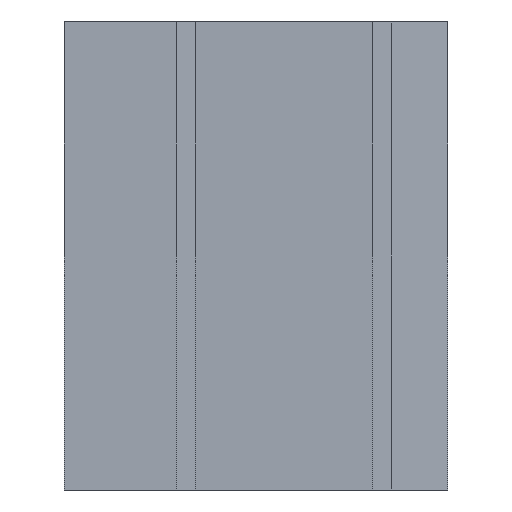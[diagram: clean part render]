
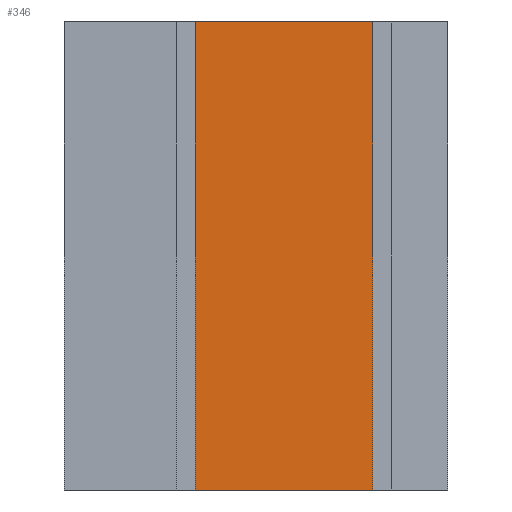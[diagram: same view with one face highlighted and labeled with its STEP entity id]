
A CAD part, left-side view. The second image highlights one B-rep face of the part: STEP entity #346.
In plain terms, the highlighted planar face has unit normal (-1, 0, 0).
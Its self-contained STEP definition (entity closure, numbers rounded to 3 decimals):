
#346=ADVANCED_FACE('',(#887),#889,.T.);
#887=FACE_BOUND('',#888,.T.);
#888=EDGE_LOOP('',(#1325,#1326,#1327,#1328));
#889=PLANE('',#890);
#890=AXIS2_PLACEMENT_3D('',#891,#892,#893);
#891=CARTESIAN_POINT('',(-25.5,7.,-25.));
#892=DIRECTION('',(-1.,0.,0.));
#893=DIRECTION('',(0.,-1.,0.));
#1325=ORIENTED_EDGE('',*,*,#1511,.T.);
#1326=ORIENTED_EDGE('',*,*,#1556,.T.);
#1327=ORIENTED_EDGE('',*,*,#1557,.F.);
#1328=ORIENTED_EDGE('',*,*,#1558,.F.);
#1511=EDGE_CURVE('',#1703,#1701,#1704,.T.);
#1556=EDGE_CURVE('',#1701,#1773,#1775,.T.);
#1557=EDGE_CURVE('',#1776,#1773,#1777,.T.);
#1558=EDGE_CURVE('',#1703,#1776,#1778,.T.);
#1701=VERTEX_POINT('',#2082);
#1703=VERTEX_POINT('',#2086);
#1704=LINE('',#2087,#2088);
#1773=VERTEX_POINT('',#2253);
#1775=LINE('',#2257,#2258);
#1776=VERTEX_POINT('',#2260);
#1777=LINE('',#2261,#2262);
#1778=LINE('',#2264,#2265);
#2082=CARTESIAN_POINT('',(-25.5,-12.,-25.));
#2086=CARTESIAN_POINT('',(-25.5,7.,-25.));
#2087=CARTESIAN_POINT('',(-25.5,7.,-25.));
#2088=VECTOR('',#2089,1.);
#2089=DIRECTION('',(0.,-1.,0.));
#2253=CARTESIAN_POINT('',(-25.5,-12.,25.));
#2257=CARTESIAN_POINT('',(-25.5,-12.,-25.));
#2258=VECTOR('',#2259,1.);
#2259=DIRECTION('',(0.,0.,1.));
#2260=CARTESIAN_POINT('',(-25.5,7.,25.));
#2261=CARTESIAN_POINT('',(-25.5,7.,25.));
#2262=VECTOR('',#2263,1.);
#2263=DIRECTION('',(0.,-1.,0.));
#2264=CARTESIAN_POINT('',(-25.5,7.,-25.));
#2265=VECTOR('',#2266,1.);
#2266=DIRECTION('',(0.,0.,1.));
